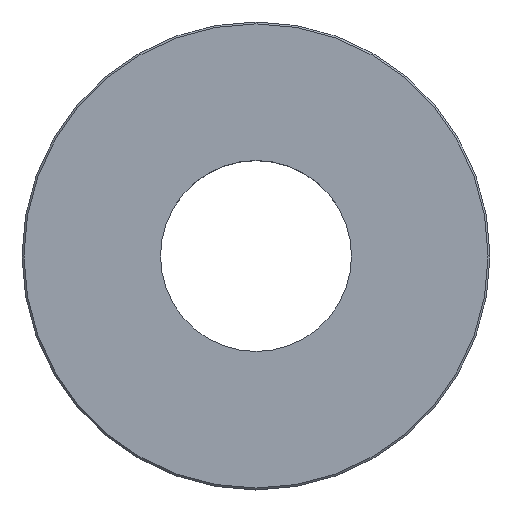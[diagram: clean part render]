
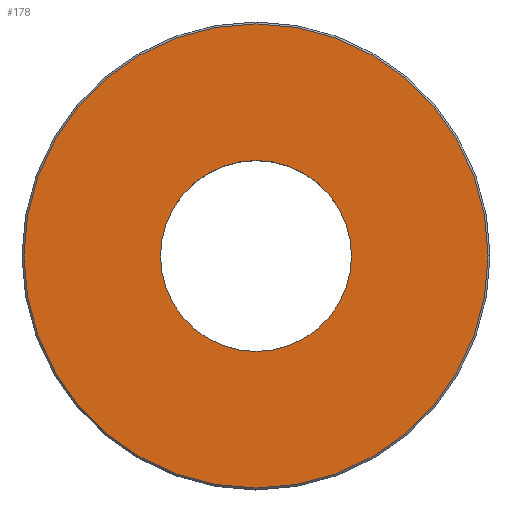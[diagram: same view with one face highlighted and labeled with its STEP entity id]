
A CAD part, top view. The second image highlights one B-rep face of the part: STEP entity #178.
In plain terms, the highlighted planar face has unit normal (0, 0, 1).
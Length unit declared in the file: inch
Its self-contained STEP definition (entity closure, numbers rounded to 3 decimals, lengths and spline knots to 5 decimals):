
#14=FACE_BOUND('',#59,.T.);
#18=PLANE('',#216);
#47=FACE_OUTER_BOUND('',#58,.T.);
#58=EDGE_LOOP('',(#149));
#59=EDGE_LOOP('',(#150));
#69=CIRCLE('',#201,0.25);
#72=CIRCLE('',#205,0.6075);
#85=VERTEX_POINT('',#552);
#89=VERTEX_POINT('',#561);
#100=EDGE_CURVE('',#85,#85,#69,.T.);
#105=EDGE_CURVE('',#89,#89,#72,.T.);
#149=ORIENTED_EDGE('',*,*,#105,.F.);
#150=ORIENTED_EDGE('',*,*,#100,.F.);
#178=ADVANCED_FACE('',(#47,#14),#18,.F.);
#201=AXIS2_PLACEMENT_3D('',#553,#232,#233);
#205=AXIS2_PLACEMENT_3D('',#563,#242,#243);
#216=AXIS2_PLACEMENT_3D('',#583,#268,#269);
#232=DIRECTION('center_axis',(0.,0.,1.));
#233=DIRECTION('ref_axis',(-1.,0.,0.));
#242=DIRECTION('center_axis',(0.,0.,-1.));
#243=DIRECTION('ref_axis',(-1.,0.,0.));
#268=DIRECTION('center_axis',(0.,0.,-1.));
#269=DIRECTION('ref_axis',(-1.,0.,0.));
#552=CARTESIAN_POINT('',(0.25,0.,0.3121));
#553=CARTESIAN_POINT('Origin',(0.,0.,0.3121));
#561=CARTESIAN_POINT('',(0.6075,0.,0.3121));
#563=CARTESIAN_POINT('Origin',(0.,0.,0.3121));
#583=CARTESIAN_POINT('Origin',(0.,0.,0.3121));
